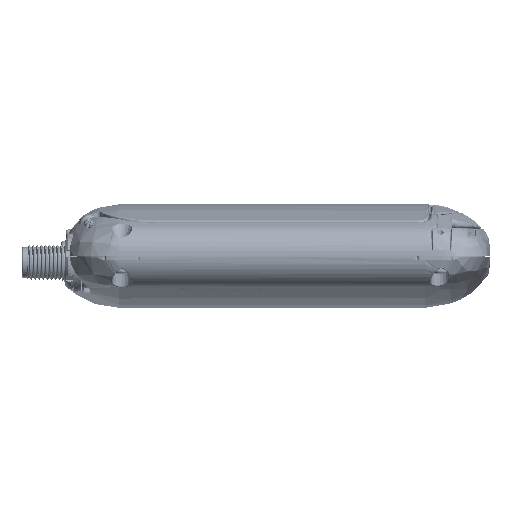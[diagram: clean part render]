
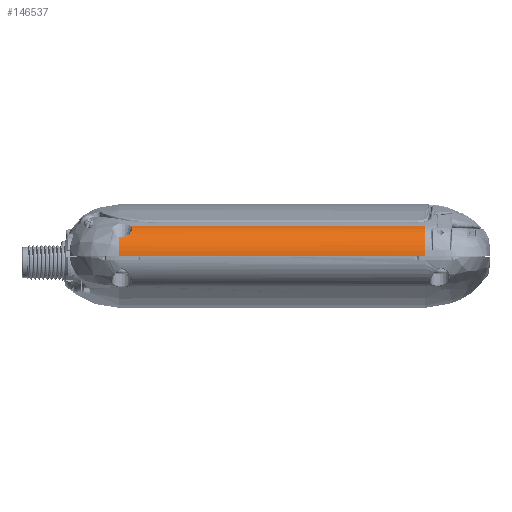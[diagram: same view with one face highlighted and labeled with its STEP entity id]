
A CAD part, left-side view. The second image highlights one B-rep face of the part: STEP entity #146537.
In plain terms, the highlighted cylindrical face has radius 5.65 mm (diameter 11.3 mm), a partial arc.
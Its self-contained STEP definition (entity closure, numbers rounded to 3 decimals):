
#2960=CIRCLE('',#155748,5.65);
#2961=CIRCLE('',#155749,5.65);
#5675=CYLINDRICAL_SURFACE('',#155747,5.65);
#12187=B_SPLINE_CURVE_WITH_KNOTS('',3,(#264366,#264367,#264368,#264369,
#264370,#264371,#264372,#264373,#264374,#264375,#264376),.UNSPECIFIED.,
 .F.,.F.,(4,1,1,1,1,1,1,1,4),(-0.474,-0.44,-0.406,
-0.339,-0.271,-0.203,-0.135,
-0.068,0.),.UNSPECIFIED.);
#12188=B_SPLINE_CURVE_WITH_KNOTS('',3,(#264378,#264379,#264380,#264381,
#264382,#264383),.UNSPECIFIED.,.F.,.F.,(4,2,4),(0.,0.,
0.),.UNSPECIFIED.);
#17152=FACE_OUTER_BOUND('',#25716,.T.);
#25716=EDGE_LOOP('',(#110399,#110400,#110401,#110402,#110403,#110404));
#35191=LINE('',#264161,#47944);
#35218=LINE('',#264364,#47971);
#47944=VECTOR('',#174705,10.);
#47971=VECTOR('',#174766,10.);
#62167=VERTEX_POINT('',#264140);
#62168=VERTEX_POINT('',#264160);
#62212=VERTEX_POINT('',#264361);
#62213=VERTEX_POINT('',#264363);
#62214=VERTEX_POINT('',#264365);
#62215=VERTEX_POINT('',#264377);
#79399=EDGE_CURVE('',#62168,#62167,#35191,.T.);
#79446=EDGE_CURVE('',#62212,#62167,#2960,.T.);
#79447=EDGE_CURVE('',#62213,#62212,#35218,.T.);
#79448=EDGE_CURVE('',#62214,#62213,#12187,.T.);
#79449=EDGE_CURVE('',#62215,#62214,#12188,.T.);
#79450=EDGE_CURVE('',#62168,#62215,#2961,.T.);
#110399=ORIENTED_EDGE('',*,*,#79446,.F.);
#110400=ORIENTED_EDGE('',*,*,#79447,.F.);
#110401=ORIENTED_EDGE('',*,*,#79448,.F.);
#110402=ORIENTED_EDGE('',*,*,#79449,.F.);
#110403=ORIENTED_EDGE('',*,*,#79450,.F.);
#110404=ORIENTED_EDGE('',*,*,#79399,.T.);
#146537=ADVANCED_FACE('',(#17152),#5675,.T.);
#155747=AXIS2_PLACEMENT_3D('',#264360,#174762,#174763);
#155748=AXIS2_PLACEMENT_3D('',#264362,#174764,#174765);
#155749=AXIS2_PLACEMENT_3D('',#264384,#174767,#174768);
#174705=DIRECTION('',(0.,1.,0.));
#174762=DIRECTION('center_axis',(0.,1.,0.));
#174763=DIRECTION('ref_axis',(-1.,0.,0.));
#174764=DIRECTION('center_axis',(0.,1.,0.));
#174765=DIRECTION('ref_axis',(-1.,0.,0.));
#174766=DIRECTION('',(0.,1.,0.));
#174767=DIRECTION('center_axis',(0.,-1.,0.));
#174768=DIRECTION('ref_axis',(-1.,0.,0.));
#264140=CARTESIAN_POINT('',(0.,28.4,23.9));
#264160=CARTESIAN_POINT('',(0.,-25.5,23.9));
#264161=CARTESIAN_POINT('',(0.,0.,23.9));
#264360=CARTESIAN_POINT('Origin',(0.,0.,18.25));
#264361=CARTESIAN_POINT('',(-5.26,28.4,20.312));
#264362=CARTESIAN_POINT('Origin',(0.,28.4,18.25));
#264363=CARTESIAN_POINT('',(-5.26,-23.341,20.312));
#264364=CARTESIAN_POINT('',(-5.26,0.,20.312));
#264365=CARTESIAN_POINT('',(-3.336,-25.5,22.81));
#264366=CARTESIAN_POINT('Ctrl Pts',(-3.336,-25.5,
22.81));
#264367=CARTESIAN_POINT('Ctrl Pts',(-3.3,-25.396,
22.837));
#264368=CARTESIAN_POINT('Ctrl Pts',(-3.245,-25.179,
22.875));
#264369=CARTESIAN_POINT('Ctrl Pts',(-3.242,-24.721,
22.877));
#264370=CARTESIAN_POINT('Ctrl Pts',(-3.442,-24.193,
22.737));
#264371=CARTESIAN_POINT('Ctrl Pts',(-3.818,-23.71,
22.426));
#264372=CARTESIAN_POINT('Ctrl Pts',(-4.233,-23.356,
22.009));
#264373=CARTESIAN_POINT('Ctrl Pts',(-4.641,-23.143,
21.496));
#264374=CARTESIAN_POINT('Ctrl Pts',(-5.002,-23.109,
20.907));
#264375=CARTESIAN_POINT('Ctrl Pts',(-5.186,-23.238,
20.501));
#264376=CARTESIAN_POINT('Ctrl Pts',(-5.26,-23.341,
20.312));
#264377=CARTESIAN_POINT('',(-3.336,-25.5,22.81));
#264378=CARTESIAN_POINT('Ctrl Pts',(-3.336,-25.5,22.81));
#264379=CARTESIAN_POINT('Ctrl Pts',(-3.336,-25.5,22.81));
#264380=CARTESIAN_POINT('Ctrl Pts',(-3.336,-25.5,
22.81));
#264381=CARTESIAN_POINT('Ctrl Pts',(-3.336,-25.5,
22.81));
#264382=CARTESIAN_POINT('Ctrl Pts',(-3.336,-25.5,
22.81));
#264383=CARTESIAN_POINT('Ctrl Pts',(-3.336,-25.5,
22.81));
#264384=CARTESIAN_POINT('Origin',(0.,-25.5,18.25));
